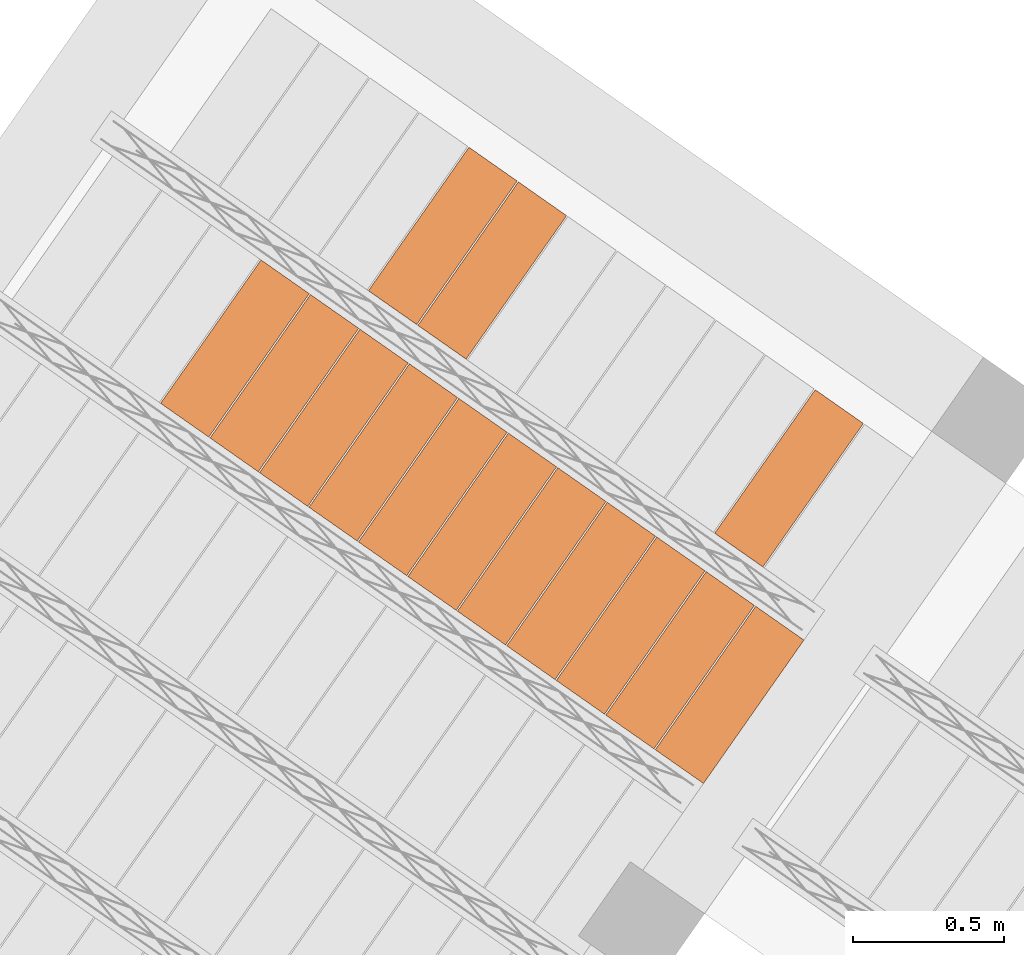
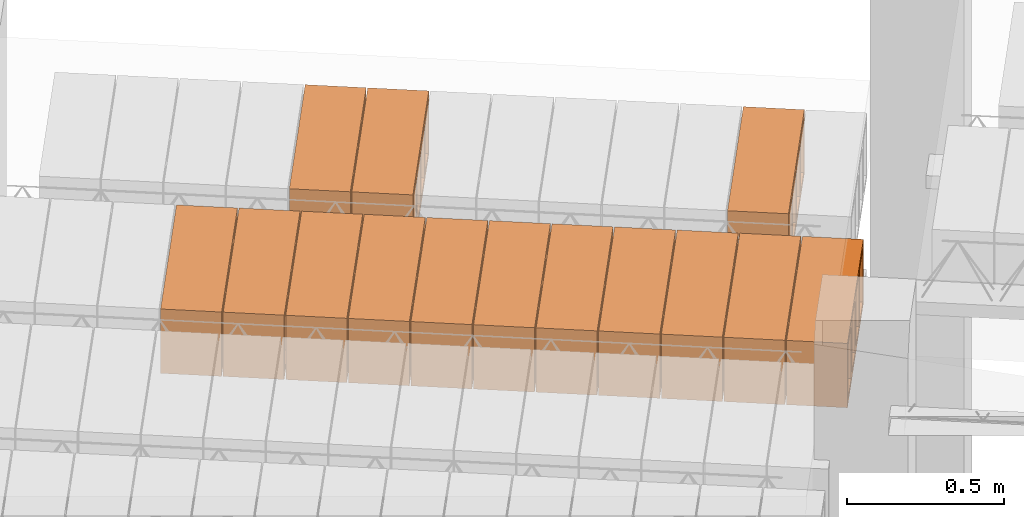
# One storey, part 73 of 80: 14 proxies.
"""IFC2X3 building model written with IfcOpenShell, lengths in metres."""

from ifc_helpers import new_model, entity, si_unit, converted_unit, derived_unit, direction, frame, origin, place, context, subcontext, project, spatial, polyline, outline, extrude, type_object, element, save


model = new_model("IFC2X3")

# Units and contexts
model_context = context("Model", 3, precision=1e-05, world=origin(), true_north=direction((6.123031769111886e-17, 1.0)))
body_context = subcontext(model_context, "Body", "Model", "MODEL_VIEW")
ifc_project = project(units=[si_unit("LENGTHUNIT", "METRE"), si_unit("AREAUNIT", "SQUARE_METRE"), si_unit("VOLUMEUNIT", "CUBIC_METRE"), converted_unit("PLANEANGLEUNIT", "DEGREE", entity("IfcPlaneAngleMeasure", 0.017453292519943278), si_unit("PLANEANGLEUNIT", "RADIAN"), dimensions=[0, 0, 0, 0, 0, 0, 0]), si_unit("MASSUNIT", "GRAM", prefix="KILO"), derived_unit("MASSDENSITYUNIT", [(si_unit("MASSUNIT", "GRAM", prefix="KILO"), 1), (si_unit("LENGTHUNIT", "METRE"), -3)]), derived_unit("IONCONCENTRATIONUNIT", [(si_unit("MASSUNIT", "GRAM", prefix="KILO"), 1), (si_unit("LENGTHUNIT", "METRE"), -3)]), derived_unit("MOMENTOFINERTIAUNIT", [(si_unit("LENGTHUNIT", "METRE"), 4)]), si_unit("TIMEUNIT", "SECOND"), si_unit("FREQUENCYUNIT", "HERTZ"), si_unit("THERMODYNAMICTEMPERATUREUNIT", "DEGREE_CELSIUS"), derived_unit("THERMALTRANSMITTANCEUNIT", [(si_unit("MASSUNIT", "GRAM", prefix="KILO"), 1), (si_unit("THERMODYNAMICTEMPERATUREUNIT", "KELVIN"), -1), (si_unit("TIMEUNIT", "SECOND"), -3)]), derived_unit("THERMALCONDUCTANCEUNIT", [(si_unit("MASSUNIT", "GRAM", prefix="KILO"), 1), (si_unit("THERMODYNAMICTEMPERATUREUNIT", "KELVIN"), -1), (si_unit("TIMEUNIT", "SECOND"), -3), (si_unit("LENGTHUNIT", "METRE"), 1)]), derived_unit("VOLUMETRICFLOWRATEUNIT", [(si_unit("LENGTHUNIT", "METRE", prefix="DECI"), 3), (si_unit("TIMEUNIT", "SECOND"), -1)]), derived_unit("MASSFLOWRATEUNIT", [(si_unit("MASSUNIT", "GRAM", prefix="KILO"), 1), (si_unit("TIMEUNIT", "SECOND"), -1)]), derived_unit("ROTATIONALFREQUENCYUNIT", [(si_unit("TIMEUNIT", "SECOND"), -1)]), si_unit("ELECTRICCURRENTUNIT", "AMPERE"), si_unit("ELECTRICVOLTAGEUNIT", "VOLT"), si_unit("POWERUNIT", "WATT"), si_unit("FORCEUNIT", "NEWTON", prefix="KILO"), si_unit("ILLUMINANCEUNIT", "LUX"), si_unit("LUMINOUSFLUXUNIT", "LUMEN"), si_unit("LUMINOUSINTENSITYUNIT", "CANDELA"), si_unit("ENERGYUNIT", "JOULE"), derived_unit("USERDEFINED", [(si_unit("MASSUNIT", "GRAM", prefix="KILO"), -1), (si_unit("LENGTHUNIT", "METRE"), -2), (si_unit("TIMEUNIT", "SECOND"), 3), (si_unit("LUMINOUSFLUXUNIT", "LUMEN"), 1)]), derived_unit("USERDEFINED", [(si_unit("MASSUNIT", "GRAM", prefix="KILO"), 1), (si_unit("TIMEUNIT", "SECOND"), -3), (si_unit("LENGTHUNIT", "METRE"), 3), (si_unit("ELECTRICCURRENTUNIT", "AMPERE"), -2)]), derived_unit("SOUNDPOWERUNIT", [(si_unit("MASSUNIT", "GRAM", prefix="KILO"), 1), (si_unit("TIMEUNIT", "SECOND"), -3), (si_unit("LENGTHUNIT", "METRE"), 2)]), derived_unit("SOUNDPRESSUREUNIT", [(si_unit("MASSUNIT", "GRAM", prefix="KILO"), 1), (si_unit("LENGTHUNIT", "METRE"), -1), (si_unit("TIMEUNIT", "SECOND"), -2)]), derived_unit("LINEARVELOCITYUNIT", [(si_unit("LENGTHUNIT", "METRE"), 1), (si_unit("TIMEUNIT", "SECOND"), -1)]), si_unit("PRESSUREUNIT", "PASCAL"), derived_unit("USERDEFINED", [(si_unit("MASSUNIT", "GRAM", prefix="KILO"), 1), (si_unit("LENGTHUNIT", "METRE"), -2), (si_unit("TIMEUNIT", "SECOND"), -2)]), derived_unit("LINEARFORCEUNIT", [(si_unit("MASSUNIT", "GRAM", prefix="KILO"), 1), (si_unit("TIMEUNIT", "SECOND"), -2)]), derived_unit("PLANARFORCEUNIT", [(si_unit("MASSUNIT", "GRAM", prefix="KILO"), 1), (si_unit("LENGTHUNIT", "METRE"), -1), (si_unit("TIMEUNIT", "SECOND"), -2)]), derived_unit("SPECIFICHEATCAPACITYUNIT", [(si_unit("THERMODYNAMICTEMPERATUREUNIT", "KELVIN"), -1), (si_unit("LENGTHUNIT", "METRE"), 2), (si_unit("TIMEUNIT", "SECOND"), -2)]), derived_unit("HEATFLUXDENSITYUNIT", [(si_unit("MASSUNIT", "GRAM", prefix="KILO"), 1), (si_unit("TIMEUNIT", "SECOND"), -3)]), derived_unit("HEATINGVALUEUNIT", [(si_unit("LENGTHUNIT", "METRE"), 2), (si_unit("TIMEUNIT", "SECOND"), -2)]), derived_unit("VAPORPERMEABILITYUNIT", [(si_unit("LENGTHUNIT", "METRE"), -1), (si_unit("TIMEUNIT", "SECOND"), 1)]), derived_unit("DYNAMICVISCOSITYUNIT", [(si_unit("MASSUNIT", "GRAM", prefix="KILO"), 1), (si_unit("TIMEUNIT", "SECOND"), -1), (si_unit("LENGTHUNIT", "METRE"), -1)]), derived_unit("THERMALEXPANSIONCOEFFICIENTUNIT", [(si_unit("THERMODYNAMICTEMPERATUREUNIT", "KELVIN"), -1)]), derived_unit("MODULUSOFELASTICITYUNIT", [(si_unit("MASSUNIT", "GRAM", prefix="KILO"), 1), (si_unit("LENGTHUNIT", "METRE"), -1), (si_unit("TIMEUNIT", "SECOND"), -2)]), derived_unit("ISOTHERMALMOISTURECAPACITYUNIT", [(si_unit("MASSUNIT", "GRAM", prefix="KILO"), -1), (si_unit("LENGTHUNIT", "METRE"), 3)]), derived_unit("MOISTUREDIFFUSIVITYUNIT", [(si_unit("TIMEUNIT", "SECOND"), -1), (si_unit("LENGTHUNIT", "METRE"), 2)]), derived_unit("MASSPERLENGTHUNIT", [(si_unit("MASSUNIT", "GRAM", prefix="KILO"), 1), (si_unit("LENGTHUNIT", "METRE"), -1)]), derived_unit("THERMALRESISTANCEUNIT", [(si_unit("MASSUNIT", "GRAM", prefix="KILO"), -1), (si_unit("TIMEUNIT", "SECOND"), 3), (si_unit("THERMODYNAMICTEMPERATUREUNIT", "KELVIN"), 1)]), derived_unit("ACCELERATIONUNIT", [(si_unit("LENGTHUNIT", "METRE"), 1), (si_unit("TIMEUNIT", "SECOND"), -2)]), derived_unit("ANGULARVELOCITYUNIT", [(si_unit("TIMEUNIT", "SECOND"), -1), (si_unit("PLANEANGLEUNIT", "RADIAN"), 1)]), derived_unit("LINEARSTIFFNESSUNIT", [(si_unit("MASSUNIT", "GRAM", prefix="KILO"), 1), (si_unit("TIMEUNIT", "SECOND"), -2)]), derived_unit("WARPINGCONSTANTUNIT", [(si_unit("LENGTHUNIT", "METRE"), 6)]), derived_unit("LINEARMOMENTUNIT", [(si_unit("MASSUNIT", "GRAM", prefix="KILO"), 1), (si_unit("LENGTHUNIT", "METRE"), 1), (si_unit("TIMEUNIT", "SECOND"), -2)]), derived_unit("TORQUEUNIT", [(si_unit("MASSUNIT", "GRAM", prefix="KILO"), 1), (si_unit("LENGTHUNIT", "METRE"), 2), (si_unit("TIMEUNIT", "SECOND"), -2)])], contexts=[model_context])

# Site, building, storey
site_placement = place(None, origin())
site = spatial("IfcSite", under=ifc_project, at=site_placement, Name="Default", CompositionType="ELEMENT")
building_placement = place(site_placement, origin())
building = spatial("IfcBuilding", under=site, at=building_placement, CompositionType="ELEMENT")
storey_placement = place(building_placement, frame((0.0, 0.0, 95.94)))
storey = spatial("IfcBuildingStorey", under=building, at=storey_placement, Name="PB", CompositionType="ELEMENT", Elevation=95.94)

# Proxies
building_element_proxy_type_1 = type_object("IfcBuildingElementProxyType", Name="Bovedilla 13-1 (Paño 2)", PredefinedType="USERDEFINED")
proxy_1_placement = place(storey_placement, origin())
element("IfcBuildingElementProxy", 1, at=proxy_1_placement, inside=storey, type_object=building_element_proxy_type_1, Name="Bovedilla 13-1 (Paño 2)", ObjectType="FORM", context=body_context, shape_type="SweptSolid", body=[
    extrude(outline(polyline([(-0.2900000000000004, -0.12500000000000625), (0.28999999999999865, -0.12500000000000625), (0.28999999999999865, 0.12500000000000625), (-0.2900000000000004, 0.12500000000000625), (-0.2900000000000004, -0.12500000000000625)]), holes=[polyline([(0.26999999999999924, -0.10499999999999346), (0.15499999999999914, -0.10499999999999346), (0.15499999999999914, 0.10499999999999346), (0.26999999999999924, 0.10499999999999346), (0.26999999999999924, 0.042499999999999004), (0.26999999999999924, -0.10499999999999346)]), polyline([(0.009999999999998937, -0.10499999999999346), (0.009999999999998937, 0.10499999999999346), (0.1349999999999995, 0.10499999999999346), (0.1349999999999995, -0.10499999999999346), (0.009999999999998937, -0.10499999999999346)]), polyline([(-0.1350000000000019, 0.10499999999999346), (-0.010000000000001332, 0.10499999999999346), (-0.010000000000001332, -0.10499999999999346), (-0.1350000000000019, -0.10499999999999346), (-0.1350000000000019, 0.10499999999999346)]), polyline([(-0.2700000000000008, -0.10499999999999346), (-0.2700000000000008, 0.042499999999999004), (-0.2700000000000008, 0.10499999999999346), (-0.15500000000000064, 0.10499999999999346), (-0.15500000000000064, -0.10499999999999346), (-0.2700000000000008, -0.10499999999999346)])]), frame((6.041869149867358, 8.343760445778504, 2.945000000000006), z_axis=(0.8191520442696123, -0.5735764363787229, 0.0), x_axis=(-0.5735764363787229, -0.8191520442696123, 0.0)), (0.0, 0.0, 1.0), 0.19499999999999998),
])
building_element_proxy_type_2 = type_object("IfcBuildingElementProxyType", Name="Bovedilla 13-2 (Paño 2)", PredefinedType="USERDEFINED")
proxy_2_placement = place(storey_placement, origin())
element("IfcBuildingElementProxy", 2, at=proxy_2_placement, inside=storey, type_object=building_element_proxy_type_2, Name="Bovedilla 13-2 (Paño 2)", ObjectType="FORM", context=body_context, shape_type="SweptSolid", body=[
    extrude(outline(polyline([(-0.28999999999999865, -0.12500000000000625), (0.2900000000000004, -0.12500000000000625), (0.2900000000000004, 0.12500000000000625), (-0.28999999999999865, 0.12500000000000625), (-0.28999999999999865, -0.12500000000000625)]), holes=[polyline([(0.2700000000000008, -0.10499999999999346), (0.15500000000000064, -0.10499999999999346), (0.15500000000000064, 0.10499999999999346), (0.2700000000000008, 0.10499999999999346), (0.2700000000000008, 0.042499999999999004), (0.2700000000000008, -0.10499999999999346)]), polyline([(0.010000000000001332, -0.10499999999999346), (0.010000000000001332, 0.10499999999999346), (0.1350000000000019, 0.10499999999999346), (0.1350000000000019, -0.10499999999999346), (0.010000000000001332, -0.10499999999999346)]), polyline([(-0.1349999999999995, 0.10499999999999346), (-0.009999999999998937, 0.10499999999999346), (-0.009999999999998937, -0.10499999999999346), (-0.1349999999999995, -0.10499999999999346), (-0.1349999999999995, 0.10499999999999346)]), polyline([(-0.26999999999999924, -0.10499999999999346), (-0.26999999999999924, 0.042499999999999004), (-0.26999999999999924, 0.10499999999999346), (-0.15499999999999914, 0.10499999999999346), (-0.15499999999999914, -0.10499999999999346), (-0.26999999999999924, -0.10499999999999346)])]), frame((5.878038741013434, 8.45847573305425, 2.945000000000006), z_axis=(0.8191520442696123, -0.5735764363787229, 0.0), x_axis=(-0.5735764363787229, -0.8191520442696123, 0.0)), (0.0, 0.0, 1.0), 0.19499999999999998),
])
building_element_proxy_type_3 = type_object("IfcBuildingElementProxyType", Name="Bovedilla 13-3 (Paño 2)", PredefinedType="USERDEFINED")
proxy_3_placement = place(storey_placement, origin())
element("IfcBuildingElementProxy", 3, at=proxy_3_placement, inside=storey, type_object=building_element_proxy_type_3, Name="Bovedilla 13-3 (Paño 2)", ObjectType="FORM", context=body_context, shape_type="SweptSolid", body=[
    extrude(outline(polyline([(-0.2900000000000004, -0.12500000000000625), (0.28999999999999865, -0.12500000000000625), (0.28999999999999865, 0.12500000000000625), (-0.2900000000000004, 0.12500000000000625), (-0.2900000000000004, -0.12500000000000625)]), holes=[polyline([(0.26999999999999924, -0.10499999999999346), (0.15499999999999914, -0.10499999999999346), (0.15499999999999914, 0.10499999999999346), (0.26999999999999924, 0.10499999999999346), (0.26999999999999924, 0.042499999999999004), (0.26999999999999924, -0.10499999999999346)]), polyline([(0.009999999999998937, -0.10499999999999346), (0.009999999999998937, 0.10499999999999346), (0.1349999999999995, 0.10499999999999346), (0.1349999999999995, -0.10499999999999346), (0.009999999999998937, -0.10499999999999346)]), polyline([(-0.1350000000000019, 0.10499999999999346), (-0.010000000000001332, 0.10499999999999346), (-0.010000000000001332, -0.10499999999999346), (-0.1350000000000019, -0.10499999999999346), (-0.1350000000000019, 0.10499999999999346)]), polyline([(-0.2700000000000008, -0.10499999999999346), (-0.2700000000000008, 0.042499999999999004), (-0.2700000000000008, 0.10499999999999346), (-0.15500000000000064, 0.10499999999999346), (-0.15500000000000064, -0.10499999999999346), (-0.2700000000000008, -0.10499999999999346)])]), frame((5.714208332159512, 8.573191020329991, 2.945000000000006), z_axis=(0.8191520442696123, -0.5735764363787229, 0.0), x_axis=(-0.5735764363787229, -0.8191520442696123, 0.0)), (0.0, 0.0, 1.0), 0.19499999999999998),
])
building_element_proxy_type_4 = type_object("IfcBuildingElementProxyType", Name="Bovedilla 13-4 (Paño 2)", PredefinedType="USERDEFINED")
proxy_4_placement = place(storey_placement, origin())
element("IfcBuildingElementProxy", 4, at=proxy_4_placement, inside=storey, type_object=building_element_proxy_type_4, Name="Bovedilla 13-4 (Paño 2)", ObjectType="FORM", context=body_context, shape_type="SweptSolid", body=[
    extrude(outline(polyline([(-0.28999999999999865, -0.12500000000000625), (0.2900000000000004, -0.12500000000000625), (0.2900000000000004, 0.12500000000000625), (-0.28999999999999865, 0.12500000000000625), (-0.28999999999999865, -0.12500000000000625)]), holes=[polyline([(0.2700000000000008, -0.10499999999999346), (0.15500000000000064, -0.10499999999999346), (0.15500000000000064, 0.10499999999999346), (0.2700000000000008, 0.10499999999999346), (0.2700000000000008, 0.042499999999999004), (0.2700000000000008, -0.10499999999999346)]), polyline([(0.010000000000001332, -0.10499999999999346), (0.010000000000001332, 0.10499999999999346), (0.1350000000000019, 0.10499999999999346), (0.1350000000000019, -0.10499999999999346), (0.010000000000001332, -0.10499999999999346)]), polyline([(-0.1349999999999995, 0.10499999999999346), (-0.009999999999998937, 0.10499999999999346), (-0.009999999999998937, -0.10499999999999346), (-0.1349999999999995, -0.10499999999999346), (-0.1349999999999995, 0.10499999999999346)]), polyline([(-0.26999999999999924, -0.10499999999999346), (-0.26999999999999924, 0.042499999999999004), (-0.26999999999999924, 0.10499999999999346), (-0.15499999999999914, 0.10499999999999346), (-0.15499999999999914, -0.10499999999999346), (-0.26999999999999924, -0.10499999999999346)])]), frame((5.550377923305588, 8.687906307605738, 2.945000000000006), z_axis=(0.8191520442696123, -0.5735764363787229, 0.0), x_axis=(-0.5735764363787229, -0.8191520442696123, 0.0)), (0.0, 0.0, 1.0), 0.19499999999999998),
])
building_element_proxy_type_5 = type_object("IfcBuildingElementProxyType", Name="Bovedilla 13-5 (Paño 2)", PredefinedType="USERDEFINED")
proxy_5_placement = place(storey_placement, origin())
element("IfcBuildingElementProxy", 5, at=proxy_5_placement, inside=storey, type_object=building_element_proxy_type_5, Name="Bovedilla 13-5 (Paño 2)", ObjectType="FORM", context=body_context, shape_type="SweptSolid", body=[
    extrude(outline(polyline([(-0.2900000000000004, -0.12500000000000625), (0.28999999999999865, -0.12500000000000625), (0.28999999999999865, 0.12500000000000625), (-0.2900000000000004, 0.12500000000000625), (-0.2900000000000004, -0.12500000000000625)]), holes=[polyline([(0.26999999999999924, -0.10499999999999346), (0.15499999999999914, -0.10499999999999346), (0.15499999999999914, 0.10499999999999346), (0.26999999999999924, 0.10499999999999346), (0.26999999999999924, 0.042499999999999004), (0.26999999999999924, -0.10499999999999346)]), polyline([(0.009999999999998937, -0.10499999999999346), (0.009999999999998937, 0.10499999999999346), (0.1349999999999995, 0.10499999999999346), (0.1349999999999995, -0.10499999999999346), (0.009999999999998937, -0.10499999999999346)]), polyline([(-0.1350000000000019, 0.10499999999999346), (-0.010000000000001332, 0.10499999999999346), (-0.010000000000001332, -0.10499999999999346), (-0.1350000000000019, -0.10499999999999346), (-0.1350000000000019, 0.10499999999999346)]), polyline([(-0.2700000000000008, -0.10499999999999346), (-0.2700000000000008, 0.042499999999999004), (-0.2700000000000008, 0.10499999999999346), (-0.15500000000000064, 0.10499999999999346), (-0.15500000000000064, -0.10499999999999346), (-0.2700000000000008, -0.10499999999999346)])]), frame((5.386547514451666, 8.80262159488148, 2.945000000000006), z_axis=(0.8191520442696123, -0.5735764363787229, 0.0), x_axis=(-0.5735764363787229, -0.8191520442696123, 0.0)), (0.0, 0.0, 1.0), 0.19499999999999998),
])
building_element_proxy_type_6 = type_object("IfcBuildingElementProxyType", Name="Bovedilla 13-6 (Paño 2)", PredefinedType="USERDEFINED")
proxy_6_placement = place(storey_placement, origin())
element("IfcBuildingElementProxy", 6, at=proxy_6_placement, inside=storey, type_object=building_element_proxy_type_6, Name="Bovedilla 13-6 (Paño 2)", ObjectType="FORM", context=body_context, shape_type="SweptSolid", body=[
    extrude(outline(polyline([(-0.28999999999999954, -0.12500000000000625), (0.28999999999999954, -0.12500000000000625), (0.28999999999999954, 0.12500000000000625), (-0.28999999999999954, 0.12500000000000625), (-0.28999999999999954, -0.12500000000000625)]), holes=[polyline([(0.26999999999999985, -0.10499999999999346), (0.15500000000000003, -0.10499999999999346), (0.15500000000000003, 0.10499999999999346), (0.26999999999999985, 0.10499999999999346), (0.26999999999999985, 0.042499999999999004), (0.26999999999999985, -0.10499999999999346)]), polyline([(0.009999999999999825, -0.10499999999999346), (0.009999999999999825, 0.10499999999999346), (0.1350000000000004, 0.10499999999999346), (0.1350000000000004, -0.10499999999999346), (0.009999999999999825, -0.10499999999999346)]), polyline([(-0.1350000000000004, 0.10499999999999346), (-0.009999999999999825, 0.10499999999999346), (-0.009999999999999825, -0.10499999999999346), (-0.1350000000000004, -0.10499999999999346), (-0.1350000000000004, 0.10499999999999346)]), polyline([(-0.26999999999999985, -0.10499999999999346), (-0.26999999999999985, 0.042499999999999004), (-0.26999999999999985, 0.10499999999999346), (-0.15500000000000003, 0.10499999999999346), (-0.15500000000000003, -0.10499999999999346), (-0.26999999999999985, -0.10499999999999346)])]), frame((5.222717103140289, 8.917336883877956, 2.945000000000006), z_axis=(0.8191520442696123, -0.5735764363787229, 0.0), x_axis=(-0.5735764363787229, -0.8191520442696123, 0.0)), (0.0, 0.0, 1.0), 0.19499999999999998),
])
building_element_proxy_type_7 = type_object("IfcBuildingElementProxyType", Name="Bovedilla 13-7 (Paño 2)", PredefinedType="USERDEFINED")
proxy_7_placement = place(storey_placement, origin())
element("IfcBuildingElementProxy", 7, at=proxy_7_placement, inside=storey, type_object=building_element_proxy_type_7, Name="Bovedilla 13-7 (Paño 2)", ObjectType="FORM", context=body_context, shape_type="SweptSolid", body=[
    extrude(outline(polyline([(-0.28999999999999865, -0.12500000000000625), (0.2900000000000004, -0.12500000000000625), (0.2900000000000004, 0.12500000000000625), (-0.28999999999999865, 0.12500000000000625), (-0.28999999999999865, -0.12500000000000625)]), holes=[polyline([(0.2700000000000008, -0.10499999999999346), (0.15500000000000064, -0.10499999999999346), (0.15500000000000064, 0.10499999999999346), (0.2700000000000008, 0.10499999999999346), (0.2700000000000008, 0.042499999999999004), (0.2700000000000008, -0.10499999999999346)]), polyline([(0.010000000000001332, -0.10499999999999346), (0.010000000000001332, 0.10499999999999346), (0.1350000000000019, 0.10499999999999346), (0.1350000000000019, -0.10499999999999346), (0.010000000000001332, -0.10499999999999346)]), polyline([(-0.1349999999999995, 0.10499999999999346), (-0.009999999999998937, 0.10499999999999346), (-0.009999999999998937, -0.10499999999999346), (-0.1349999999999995, -0.10499999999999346), (-0.1349999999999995, 0.10499999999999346)]), polyline([(-0.26999999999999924, -0.10499999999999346), (-0.26999999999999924, 0.042499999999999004), (-0.26999999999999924, 0.10499999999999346), (-0.15499999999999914, 0.10499999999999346), (-0.15499999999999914, -0.10499999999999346), (-0.26999999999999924, -0.10499999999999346)])]), frame((5.058886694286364, 9.032052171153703, 2.945000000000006), z_axis=(0.8191520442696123, -0.5735764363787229, 0.0), x_axis=(-0.5735764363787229, -0.8191520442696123, 0.0)), (0.0, 0.0, 1.0), 0.19499999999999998),
])
building_element_proxy_type_8 = type_object("IfcBuildingElementProxyType", Name="Bovedilla 13-8 (Paño 2)", PredefinedType="USERDEFINED")
proxy_8_placement = place(storey_placement, origin())
element("IfcBuildingElementProxy", 8, at=proxy_8_placement, inside=storey, type_object=building_element_proxy_type_8, Name="Bovedilla 13-8 (Paño 2)", ObjectType="FORM", context=body_context, shape_type="SweptSolid", body=[
    extrude(outline(polyline([(-0.2900000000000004, -0.12500000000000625), (0.2899999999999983, -0.12500000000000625), (0.2899999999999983, 0.12500000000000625), (-0.2900000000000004, 0.12500000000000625), (-0.2900000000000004, -0.12500000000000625)]), holes=[polyline([(0.2699999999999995, -0.10499999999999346), (0.15499999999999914, -0.10499999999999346), (0.15499999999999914, 0.10499999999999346), (0.2699999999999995, 0.10499999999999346), (0.2699999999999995, 0.042499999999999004), (0.2699999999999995, -0.10499999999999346)]), polyline([(0.009999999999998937, -0.10499999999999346), (0.009999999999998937, 0.10499999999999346), (0.1349999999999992, 0.10499999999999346), (0.1349999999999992, -0.10499999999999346), (0.009999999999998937, -0.10499999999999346)]), polyline([(-0.1350000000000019, 0.10499999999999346), (-0.010000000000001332, 0.10499999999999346), (-0.010000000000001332, -0.10499999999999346), (-0.1350000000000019, -0.10499999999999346), (-0.1350000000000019, 0.10499999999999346)]), polyline([(-0.2700000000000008, -0.10499999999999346), (-0.2700000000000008, 0.042499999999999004), (-0.2700000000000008, 0.10499999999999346), (-0.15500000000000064, 0.10499999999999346), (-0.15500000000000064, -0.10499999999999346), (-0.2700000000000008, -0.10499999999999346)])]), frame((4.895056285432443, 9.146767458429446, 2.945000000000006), z_axis=(0.8191520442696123, -0.5735764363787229, 0.0), x_axis=(-0.5735764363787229, -0.8191520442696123, 0.0)), (0.0, 0.0, 1.0), 0.19499999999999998),
])
building_element_proxy_type_9 = type_object("IfcBuildingElementProxyType", Name="Bovedilla 13-9 (Paño 2)", PredefinedType="USERDEFINED")
proxy_9_placement = place(storey_placement, origin())
element("IfcBuildingElementProxy", 9, at=proxy_9_placement, inside=storey, type_object=building_element_proxy_type_9, Name="Bovedilla 13-9 (Paño 2)", ObjectType="FORM", context=body_context, shape_type="SweptSolid", body=[
    extrude(outline(polyline([(-0.28999999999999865, -0.12500000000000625), (0.29000000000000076, -0.12500000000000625), (0.29000000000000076, 0.12500000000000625), (-0.28999999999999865, 0.12500000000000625), (-0.28999999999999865, -0.12500000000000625)]), holes=[polyline([(0.2700000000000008, -0.10499999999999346), (0.15500000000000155, -0.10499999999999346), (0.15500000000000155, 0.10499999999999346), (0.2700000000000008, 0.10499999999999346), (0.2700000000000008, 0.042499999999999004), (0.2700000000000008, -0.10499999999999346)]), polyline([(0.010000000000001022, -0.10499999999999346), (0.010000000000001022, 0.10499999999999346), (0.1350000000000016, 0.10499999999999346), (0.1350000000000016, -0.10499999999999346), (0.010000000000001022, -0.10499999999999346)]), polyline([(-0.1349999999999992, 0.10499999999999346), (-0.009999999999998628, 0.10499999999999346), (-0.009999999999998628, -0.10499999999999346), (-0.1349999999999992, -0.10499999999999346), (-0.1349999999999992, 0.10499999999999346)]), polyline([(-0.26999999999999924, -0.10499999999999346), (-0.26999999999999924, 0.042499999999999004), (-0.26999999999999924, 0.10499999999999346), (-0.15499999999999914, 0.10499999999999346), (-0.15499999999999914, -0.10499999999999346), (-0.26999999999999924, -0.10499999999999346)])]), frame((4.731225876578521, 9.261482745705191, 2.945000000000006), z_axis=(0.8191520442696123, -0.5735764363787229, 0.0), x_axis=(-0.5735764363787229, -0.8191520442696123, 0.0)), (0.0, 0.0, 1.0), 0.19499999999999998),
])
building_element_proxy_type_10 = type_object("IfcBuildingElementProxyType", Name="Bovedilla 13-10 (Paño 2)", PredefinedType="USERDEFINED")
proxy_10_placement = place(storey_placement, origin())
element("IfcBuildingElementProxy", 10, at=proxy_10_placement, inside=storey, type_object=building_element_proxy_type_10, Name="Bovedilla 13-10 (Paño 2)", ObjectType="FORM", context=body_context, shape_type="SweptSolid", body=[
    extrude(outline(polyline([(-0.29000000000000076, -0.12500000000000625), (0.2899999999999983, -0.12500000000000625), (0.2899999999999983, 0.12500000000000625), (-0.29000000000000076, 0.12500000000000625), (-0.29000000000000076, -0.12500000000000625)]), holes=[polyline([(0.2699999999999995, -0.10499999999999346), (0.15499999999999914, -0.10499999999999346), (0.15499999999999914, 0.10499999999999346), (0.2699999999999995, 0.10499999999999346), (0.2699999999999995, 0.042499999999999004), (0.2699999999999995, -0.10499999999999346)]), polyline([(0.009999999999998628, -0.10499999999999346), (0.009999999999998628, 0.10499999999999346), (0.1349999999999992, 0.10499999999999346), (0.1349999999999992, -0.10499999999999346), (0.009999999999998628, -0.10499999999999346)]), polyline([(-0.1350000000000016, 0.10499999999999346), (-0.010000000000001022, 0.10499999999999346), (-0.010000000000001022, -0.10499999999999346), (-0.1350000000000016, -0.10499999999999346), (-0.1350000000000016, 0.10499999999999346)]), polyline([(-0.2700000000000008, -0.10499999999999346), (-0.2700000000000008, 0.042499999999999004), (-0.2700000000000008, 0.10499999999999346), (-0.15500000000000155, 0.10499999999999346), (-0.15500000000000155, -0.10499999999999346), (-0.2700000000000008, -0.10499999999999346)])]), frame((4.567395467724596, 9.376198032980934, 2.945000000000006), z_axis=(0.8191520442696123, -0.5735764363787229, 0.0), x_axis=(-0.5735764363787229, -0.8191520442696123, 0.0)), (0.0, 0.0, 1.0), 0.19499999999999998),
])
building_element_proxy_type_11 = type_object("IfcBuildingElementProxyType", Name="Bovedilla 13-11 (Paño 2)", PredefinedType="USERDEFINED")
proxy_11_placement = place(storey_placement, origin())
element("IfcBuildingElementProxy", 11, at=proxy_11_placement, inside=storey, type_object=building_element_proxy_type_11, Name="Bovedilla 13-11 (Paño 2)", ObjectType="FORM", context=body_context, shape_type="SweptSolid", body=[
    extrude(outline(polyline([(-0.2899999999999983, -0.12500000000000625), (0.29000000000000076, -0.12500000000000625), (0.29000000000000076, 0.12500000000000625), (-0.2899999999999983, 0.12500000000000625), (-0.2899999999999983, -0.12500000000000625)]), holes=[polyline([(0.2700000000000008, -0.10499999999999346), (0.15500000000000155, -0.10499999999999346), (0.15500000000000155, 0.10499999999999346), (0.2700000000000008, 0.10499999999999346), (0.2700000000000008, 0.042499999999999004), (0.2700000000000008, -0.10499999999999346)]), polyline([(0.010000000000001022, -0.10499999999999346), (0.010000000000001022, 0.10499999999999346), (0.1350000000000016, 0.10499999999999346), (0.1350000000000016, -0.10499999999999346), (0.010000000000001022, -0.10499999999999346)]), polyline([(-0.1349999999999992, 0.10499999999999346), (-0.009999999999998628, 0.10499999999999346), (-0.009999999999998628, -0.10499999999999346), (-0.1349999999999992, -0.10499999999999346), (-0.1349999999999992, 0.10499999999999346)]), polyline([(-0.2699999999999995, -0.10499999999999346), (-0.2699999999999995, 0.042499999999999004), (-0.2699999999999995, 0.10499999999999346), (-0.15499999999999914, 0.10499999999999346), (-0.15499999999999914, -0.10499999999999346), (-0.2699999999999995, -0.10499999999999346)])]), frame((4.403565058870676, 9.49091332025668, 2.945000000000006), z_axis=(0.8191520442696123, -0.5735764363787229, 0.0), x_axis=(-0.5735764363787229, -0.8191520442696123, 0.0)), (0.0, 0.0, 1.0), 0.19499999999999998),
])
building_element_proxy_type_12 = type_object("IfcBuildingElementProxyType", Name="Bovedilla 14-2 (Paño 2)", PredefinedType="USERDEFINED")
proxy_12_placement = place(storey_placement, origin())
element("IfcBuildingElementProxy", 12, at=proxy_12_placement, inside=storey, type_object=building_element_proxy_type_12, Name="Bovedilla 14-2 (Paño 2)", ObjectType="FORM", context=body_context, shape_type="SweptSolid", body=[
    extrude(outline(polyline([(-0.28999999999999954, -0.12500000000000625), (0.28999999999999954, -0.12500000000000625), (0.28999999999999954, 0.12500000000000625), (-0.28999999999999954, 0.12500000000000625), (-0.28999999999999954, -0.12500000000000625)]), holes=[polyline([(0.26999999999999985, -0.10499999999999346), (0.15500000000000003, -0.10499999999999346), (0.15500000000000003, 0.10499999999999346), (0.26999999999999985, 0.10499999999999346), (0.26999999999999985, 0.042499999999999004), (0.26999999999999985, -0.10499999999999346)]), polyline([(0.009999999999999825, -0.10499999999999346), (0.009999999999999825, 0.10499999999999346), (0.1350000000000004, 0.10499999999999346), (0.1350000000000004, -0.10499999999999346), (0.009999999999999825, -0.10499999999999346)]), polyline([(-0.1350000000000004, 0.10499999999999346), (-0.009999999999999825, 0.10499999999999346), (-0.009999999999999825, -0.10499999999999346), (-0.1350000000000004, -0.10499999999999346), (-0.1350000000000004, 0.10499999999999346)]), polyline([(-0.26999999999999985, -0.10499999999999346), (-0.26999999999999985, 0.042499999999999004), (-0.26999999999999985, 0.10499999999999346), (-0.15500000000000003, 0.10499999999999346), (-0.15500000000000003, -0.10499999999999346), (-0.26999999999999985, -0.10499999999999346)])]), frame((6.238871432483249, 9.060970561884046, 2.945000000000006), z_axis=(0.8191520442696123, -0.5735764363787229, 0.0), x_axis=(-0.5735764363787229, -0.8191520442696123, 0.0)), (0.0, 0.0, 1.0), 0.19499999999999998),
])
building_element_proxy_type_13 = type_object("IfcBuildingElementProxyType", Name="Bovedilla 14-8 (Paño 2)", PredefinedType="USERDEFINED")
proxy_13_placement = place(storey_placement, origin())
element("IfcBuildingElementProxy", 13, at=proxy_13_placement, inside=storey, type_object=building_element_proxy_type_13, Name="Bovedilla 14-8 (Paño 2)", ObjectType="FORM", context=body_context, shape_type="SweptSolid", body=[
    extrude(outline(polyline([(-0.2900000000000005, -0.12500000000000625), (0.28999999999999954, -0.12500000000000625), (0.28999999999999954, 0.12500000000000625), (-0.2900000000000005, 0.12500000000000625), (-0.2900000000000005, -0.12500000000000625)]), holes=[polyline([(0.26999999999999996, -0.10499999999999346), (0.15500000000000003, -0.10499999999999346), (0.15500000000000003, 0.10499999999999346), (0.26999999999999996, 0.10499999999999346), (0.26999999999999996, 0.042499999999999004), (0.26999999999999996, -0.10499999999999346)]), polyline([(0.009999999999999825, -0.10499999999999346), (0.009999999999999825, 0.10499999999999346), (0.1350000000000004, 0.10499999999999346), (0.1350000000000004, -0.10499999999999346), (0.009999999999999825, -0.10499999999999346)]), polyline([(-0.1349999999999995, 0.10499999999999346), (-0.009999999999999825, 0.10499999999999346), (-0.009999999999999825, -0.10499999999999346), (-0.1349999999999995, -0.10499999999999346), (-0.1349999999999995, 0.10499999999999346)]), polyline([(-0.2700000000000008, -0.10499999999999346), (-0.2700000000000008, 0.042499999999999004), (-0.2700000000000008, 0.10499999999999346), (-0.15499999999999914, 0.10499999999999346), (-0.15499999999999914, -0.10499999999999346), (-0.2700000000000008, -0.10499999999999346)])]), frame((5.255888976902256, 9.749262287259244, 2.945000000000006), z_axis=(0.819152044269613, -0.5735764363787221, 0.0), x_axis=(-0.5735764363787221, -0.819152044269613, 0.0)), (0.0, 0.0, 1.0), 0.19499999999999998),
])
building_element_proxy_type_14 = type_object("IfcBuildingElementProxyType", Name="Bovedilla 14-9 (Paño 2)", PredefinedType="USERDEFINED")
proxy_14_placement = place(storey_placement, origin())
element("IfcBuildingElementProxy", 14, at=proxy_14_placement, inside=storey, type_object=building_element_proxy_type_14, Name="Bovedilla 14-9 (Paño 2)", ObjectType="FORM", context=body_context, shape_type="SweptSolid", body=[
    extrude(outline(polyline([(-0.2900000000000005, -0.12500000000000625), (0.28999999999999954, -0.12500000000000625), (0.28999999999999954, 0.12500000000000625), (-0.2900000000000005, 0.12500000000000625), (-0.2900000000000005, -0.12500000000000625)]), holes=[polyline([(0.26999999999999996, -0.10499999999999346), (0.15500000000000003, -0.10499999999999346), (0.15500000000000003, 0.10499999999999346), (0.26999999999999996, 0.10499999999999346), (0.26999999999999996, 0.042499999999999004), (0.26999999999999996, -0.10499999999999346)]), polyline([(0.009999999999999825, -0.10499999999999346), (0.009999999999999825, 0.10499999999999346), (0.1350000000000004, 0.10499999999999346), (0.1350000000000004, -0.10499999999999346), (0.009999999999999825, -0.10499999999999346)]), polyline([(-0.1349999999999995, 0.10499999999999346), (-0.009999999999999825, 0.10499999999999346), (-0.009999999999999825, -0.10499999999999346), (-0.1349999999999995, -0.10499999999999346), (-0.1349999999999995, 0.10499999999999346)]), polyline([(-0.2700000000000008, -0.10499999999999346), (-0.2700000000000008, 0.042499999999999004), (-0.2700000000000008, 0.10499999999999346), (-0.15499999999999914, 0.10499999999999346), (-0.15499999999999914, -0.10499999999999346), (-0.2700000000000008, -0.10499999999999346)])]), frame((5.0920585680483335, 9.863977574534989, 2.945000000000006), z_axis=(0.819152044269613, -0.5735764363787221, 0.0), x_axis=(-0.5735764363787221, -0.819152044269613, 0.0)), (0.0, 0.0, 1.0), 0.19499999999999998),
])

save(model, "model.ifc")
